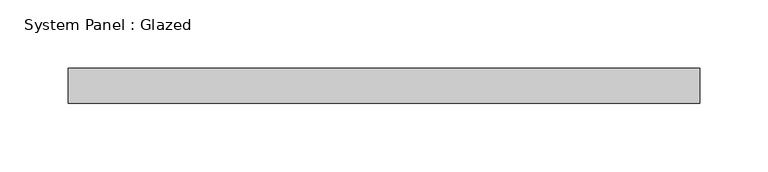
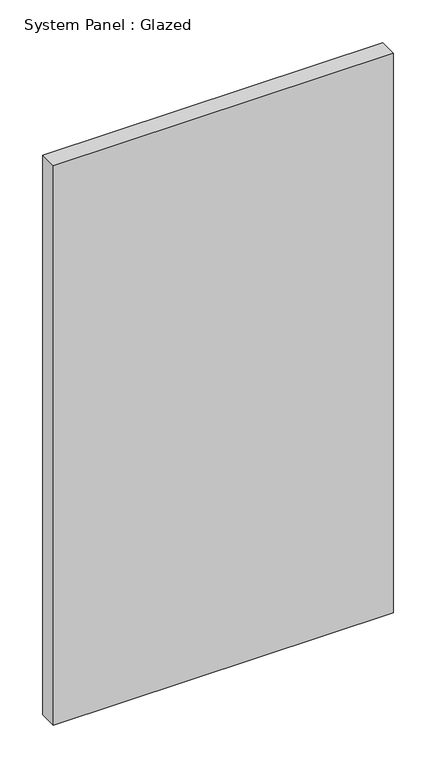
"""IFC4 building model written with IfcOpenShell, lengths in millimetres: plate geometry, System Panel : Glazed."""

from ifc_helpers import new_model, si_unit, origin, origin_with_axes, place, context, project, spatial, polyline, outline, extrude, source, transform, mapped, element, save


def system_panel_glazed_e2c18884(model_context):
    return source(origin(), model_context, "Body", "SweptSolid", [
        extrude(outline(polyline([(230.5550234, -44.45), (-230.5550234, -44.45), (-230.5550234, -19.05), (230.5550234, -19.05), (230.5550234, -44.45)])), origin_with_axes(), (0.0, 0.0, 1.0), 802.4190025),
    ])


if __name__ == "__main__":
    model = new_model("IFC4")
    model_context = context("Model", 3, world=origin())
    ifc_project = project(units=[si_unit("LENGTHUNIT", "METRE", prefix="MILLI")], contexts=[model_context])
    site = spatial("IfcSite", under=ifc_project)
    building = spatial("IfcBuilding", under=site)
    placement = place(None, origin())
    system_panel_glazed_shape = system_panel_glazed_e2c18884(model_context)
    element("IfcPlate", 1, ObjectType="System Panel : Glazed", at=placement, inside=building, context=model_context, shape_type="MappedRepresentation", body=[
        mapped(system_panel_glazed_shape, transform((0.0, 0.0, 0.0), x_axis=(1.0, 0.0, 0.0), y_axis=(0.0, 1.0, 0.0), z_axis=(0.0, 0.0, 1.0))),
    ])
    save(model, "model.ifc")
